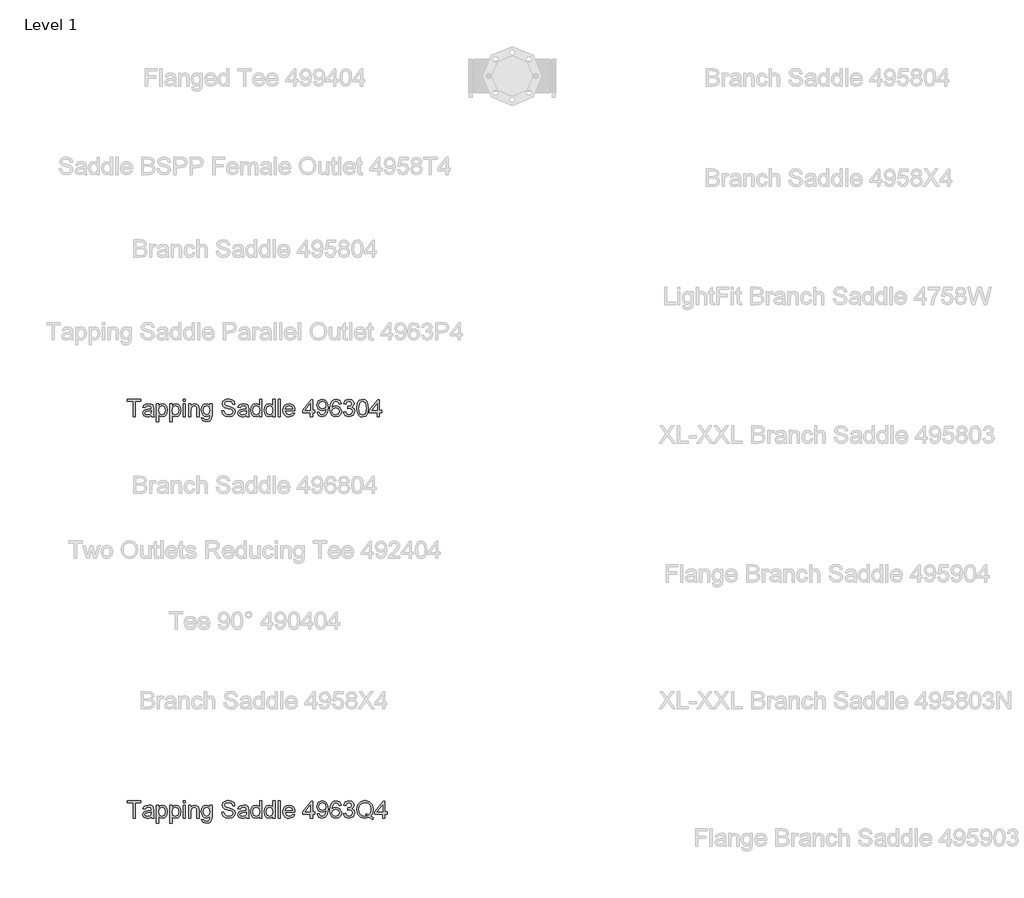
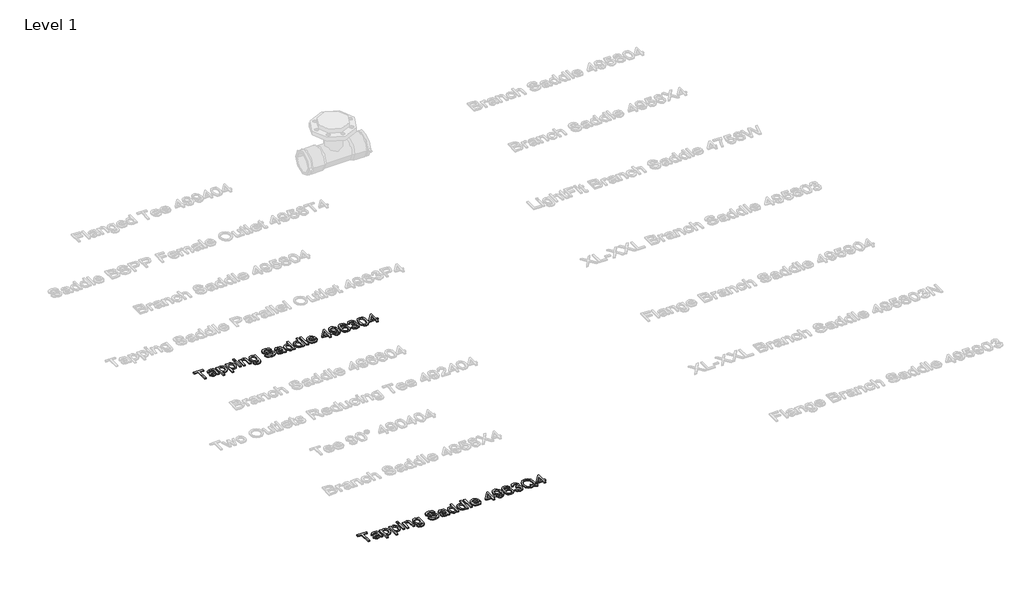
# One storey, part 4 of 38: 2 proxies.
"""IFC4 building model written with IfcOpenShell, lengths in millimetres."""

from ifc_helpers import new_model, si_unit, origin, origin_with_axes, place, context, project, spatial, polyline, outline, extrude, element, save

model = new_model("IFC4")

# Units and contexts
model_context = context("Model", 3, world=origin())
ifc_project = project(units=[si_unit("LENGTHUNIT", "METRE", prefix="MILLI")], contexts=[model_context])

# Site, building, storey
site = spatial("IfcSite", under=ifc_project)
building = spatial("IfcBuilding", under=site)
storey = spatial("IfcBuildingStorey", under=building, Name="Level 1", Elevation=0.0)

# Proxies
placement = place(None, origin())
element("IfcBuildingElementProxy", 1, Name="100 mm Arial", ObjectType="100 mm Arial", at=placement, inside=storey, context=model_context, shape_type="SweptSolid", body=[
    extrude(outline(polyline([(6647.6731533, 3817.5779735), (6647.6731533, 3869.2702812), (6628.288538, 3869.2702812), (6628.288538, 3876.6548966), (6674.4423841, 3876.6548966), (6674.4423841, 3869.2702812), (6655.0577687, 3869.2702812), (6655.0577687, 3817.5779735), (6647.6731533, 3817.5779735)])), origin_with_axes(), (0.0, 0.0, 1.0), 5.0),
    extrude(outline(polyline([(6709.5193072, 3823.1164351), (6702.3582495, 3818.1116274), (6694.4471918, 3816.6548966), (6683.7236341, 3820.1597043), (6679.9808456, 3829.1164351), (6681.3943072, 3834.9577812), (6685.1082495, 3839.1981658), (6690.2789226, 3841.6212428), (6696.6683456, 3842.7318197), (6709.476038, 3845.2702812), (6709.5193072, 3846.914512), (6707.4856533, 3852.3664351), (6699.3221918, 3854.5010505), (6691.851038, 3853.0803774), (6688.288538, 3848.039512), (6680.9039226, 3848.9625889), (6684.0986341, 3856.1741274), (6690.5313264, 3860.4000889), (6700.2741149, 3861.8856658), (6709.2236341, 3860.5731658), (6714.2789226, 3857.2774928), (6716.5433456, 3852.2654735), (6716.9039226, 3845.8039351), (6716.9039226, 3836.6164351), (6717.2789226, 3823.7871082), (6718.7500764, 3817.5779735), (6711.365461, 3817.5779735), (6709.5193072, 3823.1164351)]), holes=[polyline([(6709.5193072, 3837.8856658), (6697.6058456, 3835.6212428), (6691.2524803, 3834.4241274), (6688.3750764, 3832.477012), (6687.365461, 3829.6356658), (6689.5649803, 3825.6404735), (6696.0193072, 3824.039512), (6703.490461, 3825.8063389), (6708.3077687, 3830.0827812), (6709.476038, 3835.7943197), (6709.5193072, 3837.8856658)])]), origin_with_axes(), (0.0, 0.0, 1.0), 5.0),
    extrude(outline(polyline([(6727.0577687, 3800.9625889), (6727.0577687, 3860.9625889), (6734.4423841, 3860.9625889), (6734.4423841, 3853.7222043), (6739.5481533, 3859.8448005), (6746.4423841, 3861.8856658), (6755.802961, 3859.0298966), (6761.9183456, 3850.9818197), (6763.9808456, 3839.602012), (6761.6515187, 3827.6380697), (6754.8870956, 3819.4890312), (6745.5481533, 3816.6548966), (6739.1226726, 3818.5515312), (6734.4423841, 3823.3472043), (6734.4423841, 3800.9625889), (6727.0577687, 3800.9625889)]), holes=[polyline([(6734.4423841, 3838.9241274), (6737.6370956, 3827.6741274), (6745.3894995, 3824.039512), (6753.3005572, 3827.8039351), (6756.5962303, 3839.4722043), (6753.3798841, 3850.7510505), (6745.6923841, 3854.5010505), (6737.8534418, 3850.5130697), (6734.4423841, 3838.9241274)])]), origin_with_axes(), (0.0, 0.0, 1.0), 5.0),
    extrude(outline(polyline([(6772.288538, 3800.9625889), (6772.288538, 3860.9625889), (6779.6731533, 3860.9625889), (6779.6731533, 3853.7222043), (6784.7789226, 3859.8448005), (6791.6731533, 3861.8856658), (6801.0337303, 3859.0298966), (6807.1491149, 3850.9818197), (6809.2116149, 3839.602012), (6806.882288, 3827.6380697), (6800.1178649, 3819.4890312), (6790.7789226, 3816.6548966), (6784.3534418, 3818.5515312), (6779.6731533, 3823.3472043), (6779.6731533, 3800.9625889), (6772.288538, 3800.9625889)]), holes=[polyline([(6779.6731533, 3838.9241274), (6782.8678649, 3827.6741274), (6790.6202687, 3824.039512), (6798.5313264, 3827.8039351), (6801.8269995, 3839.4722043), (6798.6106533, 3850.7510505), (6790.9231533, 3854.5010505), (6783.084211, 3850.5130697), (6779.6731533, 3838.9241274)])]), origin_with_axes(), (0.0, 0.0, 1.0), 5.0),
    extrude(outline(polyline([(6817.5193072, 3869.2702812), (6817.5193072, 3876.6548966), (6824.9039226, 3876.6548966), (6824.9039226, 3869.2702812), (6817.5193072, 3869.2702812)])), origin_with_axes(), (0.0, 0.0, 1.0), 5.0),
    extrude(outline(polyline([(6817.5193072, 3817.5779735), (6817.5193072, 3860.9625889), (6824.9039226, 3860.9625889), (6824.9039226, 3817.5779735), (6817.5193072, 3817.5779735)])), origin_with_axes(), (0.0, 0.0, 1.0), 5.0),
    extrude(outline(polyline([(6835.9808456, 3817.5779735), (6835.9808456, 3860.9625889), (6843.365461, 3860.9625889), (6843.365461, 3854.9048966), (6849.0120956, 3860.1404735), (6856.7212303, 3861.8856658), (6863.694788, 3860.4794158), (6868.4544033, 3856.7871082), (6870.6683456, 3851.3568197), (6871.0577687, 3844.2173966), (6871.0577687, 3817.5779735), (6863.6731533, 3817.5779735), (6863.6731533, 3843.2222043), (6862.8221918, 3849.7558582), (6859.8149803, 3853.2101851), (6854.7452687, 3854.5010505), (6846.7332495, 3851.602012), (6843.365461, 3840.5972043), (6843.365461, 3817.5779735), (6835.9808456, 3817.5779735)])), origin_with_axes(), (0.0, 0.0, 1.0), 5.0),
    extrude(outline(polyline([(6879.365461, 3813.8856658), (6886.7500764, 3812.9625889), (6889.1443072, 3809.0683582), (6896.3125764, 3807.4241274), (6903.8702687, 3809.2847043), (6907.476038, 3814.5058582), (6907.9808456, 3823.1164351), (6896.4423841, 3817.5779735), (6888.8288024, 3819.1897524), (6883.1515187, 3824.0250889), (6878.4423841, 3839.4866274), (6880.5553649, 3850.9313389), (6886.6707495, 3859.0298966), (6896.0818072, 3861.8856658), (6902.6695476, 3860.2702812), (6907.9808456, 3855.4241274), (6907.9808456, 3860.9625889), (6915.365461, 3860.9625889), (6915.365461, 3823.5058582), (6913.3462303, 3809.1621082), (6906.9495956, 3802.4914351), (6896.1683456, 3800.039512), (6883.8870956, 3803.4938389), (6879.365461, 3813.8856658)]), holes=[polyline([(6885.8269995, 3839.9914351), (6888.9784418, 3828.5611466), (6896.8894995, 3824.9625889), (6904.7861341, 3828.539512), (6907.9808456, 3839.7750889), (6904.6923841, 3850.7871082), (6896.7741149, 3854.5010505), (6889.021711, 3850.8448005), (6885.8269995, 3839.9914351)])]), origin_with_axes(), (0.0, 0.0, 1.0), 5.0),
    extrude(outline(polyline([(6947.6731533, 3837.8856658), (6955.0577687, 3837.8856658), (6957.4375764, 3830.4938389), (6963.2500764, 3825.820762), (6972.1058456, 3824.039512), (6979.8221918, 3825.3880697), (6984.8053649, 3829.0948005), (6986.4423841, 3834.0491274), (6985.2164226, 3838.6573005), (6980.1971918, 3842.0106658), (6969.444788, 3844.8303774), (6957.8702687, 3848.4722043), (6951.5890187, 3853.9673966), (6949.5193072, 3861.3087428), (6952.0794033, 3869.6669158), (6959.5577687, 3875.5659543), (6970.5048841, 3877.5779735), (6982.1875764, 3875.4722043), (6989.976038, 3869.2847043), (6992.9039226, 3860.039512), (6985.5193072, 3860.039512), (6981.3366149, 3867.6260505), (6970.7933456, 3870.1933582), (6960.2212303, 3867.6548966), (6956.9039226, 3861.5250889), (6959.2548841, 3856.4048966), (6971.3125764, 3852.2798966), (6984.3798841, 3848.5731658), (6991.5265187, 3842.5875889), (6993.8269995, 3834.2366274), (6991.1803649, 3825.4024928), (6983.5649803, 3818.9553774), (6972.3943072, 3816.6548966), (6959.2044033, 3819.1356658), (6950.8606533, 3826.6068197), (6947.6731533, 3837.8856658)])), origin_with_axes(), (0.0, 0.0, 1.0), 5.0),
    extrude(outline(polyline([(7031.6731533, 3823.1164351), (7024.5120956, 3818.1116274), (7016.601038, 3816.6548966), (7005.8774803, 3820.1597043), (7002.1346918, 3829.1164351), (7003.5481533, 3834.9577812), (7007.2620956, 3839.1981658), (7012.4327687, 3841.6212428), (7018.8221918, 3842.7318197), (7031.6298841, 3845.2702812), (7031.6731533, 3846.914512), (7029.6394995, 3852.3664351), (7021.476038, 3854.5010505), (7014.0048841, 3853.0803774), (7010.4423841, 3848.039512), (7003.0577687, 3848.9625889), (7006.2524803, 3856.1741274), (7012.6851726, 3860.4000889), (7022.427961, 3861.8856658), (7031.3774803, 3860.5731658), (7036.4327687, 3857.2774928), (7038.6971918, 3852.2654735), (7039.0577687, 3845.8039351), (7039.0577687, 3836.6164351), (7039.4327687, 3823.7871082), (7040.9039226, 3817.5779735), (7033.5193072, 3817.5779735), (7031.6731533, 3823.1164351)]), holes=[polyline([(7031.6731533, 3837.8856658), (7019.7596918, 3835.6212428), (7013.4063264, 3834.4241274), (7010.5289226, 3832.477012), (7009.5193072, 3829.6356658), (7011.7188264, 3825.6404735), (7018.1731533, 3824.039512), (7025.6443072, 3825.8063389), (7030.4616149, 3830.0827812), (7031.6298841, 3835.7943197), (7031.6731533, 3837.8856658)])]), origin_with_axes(), (0.0, 0.0, 1.0), 5.0),
    extrude(outline(polyline([(7075.9808456, 3817.5779735), (7075.9808456, 3824.5443197), (7071.0950283, 3818.6272524), (7064.3414226, 3816.6548966), (7055.1971918, 3819.5106658), (7048.7356533, 3827.4794158), (7046.4423841, 3839.227012), (7048.5553649, 3850.9818197), (7054.8870956, 3859.0731658), (7064.3125764, 3861.8856658), (7071.1202687, 3859.8736466), (7075.9808456, 3854.6452812), (7075.9808456, 3876.6548966), (7083.365461, 3876.6548966), (7083.365461, 3817.5779735), (7075.9808456, 3817.5779735)]), holes=[polyline([(7053.8269995, 3839.2558582), (7057.1587303, 3827.8255697), (7065.0193072, 3824.039512), (7072.7861341, 3827.6524928), (7075.9808456, 3838.6933582), (7072.7284418, 3850.6789351), (7064.7164226, 3854.5010505), (7056.9423841, 3850.8303774), (7053.8269995, 3839.2558582)])]), origin_with_axes(), (0.0, 0.0, 1.0), 5.0),
    extrude(outline(polyline([(7121.2116149, 3817.5779735), (7121.2116149, 3824.5443197), (7116.3257976, 3818.6272524), (7109.5721918, 3816.6548966), (7100.427961, 3819.5106658), (7093.9664226, 3827.4794158), (7091.6731533, 3839.227012), (7093.7861341, 3850.9818197), (7100.1178649, 3859.0731658), (7109.5433456, 3861.8856658), (7116.351038, 3859.8736466), (7121.2116149, 3854.6452812), (7121.2116149, 3876.6548966), (7128.5962303, 3876.6548966), (7128.5962303, 3817.5779735), (7121.2116149, 3817.5779735)]), holes=[polyline([(7099.0577687, 3839.2558582), (7102.3894995, 3827.8255697), (7110.2500764, 3824.039512), (7118.0169033, 3827.6524928), (7121.2116149, 3838.6933582), (7117.959211, 3850.6789351), (7109.9471918, 3854.5010505), (7102.1731533, 3850.8303774), (7099.0577687, 3839.2558582)])]), origin_with_axes(), (0.0, 0.0, 1.0), 5.0),
    extrude(outline(polyline([(7139.6731533, 3817.5779735), (7139.6731533, 3876.6548966), (7147.0577687, 3876.6548966), (7147.0577687, 3817.5779735), (7139.6731533, 3817.5779735)])), origin_with_axes(), (0.0, 0.0, 1.0), 5.0),
    extrude(outline(polyline([(7188.5096918, 3830.5010505), (7195.7500764, 3829.5779735), (7188.9784418, 3820.0443197), (7176.365461, 3816.6548966), (7167.7007976, 3818.117036), (7161.0337303, 3822.5034543), (7156.7825283, 3829.5292957), (7155.365461, 3838.9097043), (7156.7969514, 3848.6056178), (7161.0914226, 3855.8568197), (7167.6683456, 3860.3784543), (7175.9471918, 3861.8856658), (7183.9682255, 3860.3820601), (7190.3774803, 3855.8712428), (7194.5800043, 3848.6344639), (7195.9808456, 3838.9529735), (7195.9375764, 3836.9625889), (7162.7500764, 3836.9625889), (7166.9976726, 3827.3712428), (7176.5096918, 3824.039512), (7183.7500764, 3825.5827812), (7188.5096918, 3830.5010505)]), holes=[polyline([(7162.7500764, 3844.3472043), (7188.5962303, 3844.3472043), (7185.6394995, 3851.039512), (7175.9183456, 3854.5010505), (7166.8245956, 3851.7390312), (7162.7500764, 3844.3472043)])]), origin_with_axes(), (0.0, 0.0, 1.0), 5.0),
    extrude(outline(polyline([(7248.5962303, 3817.5779735), (7248.5962303, 3831.4241274), (7221.8269995, 3831.4241274), (7221.8269995, 3838.8087428), (7250.4423841, 3875.7318197), (7255.9808456, 3875.7318197), (7255.9808456, 3838.8087428), (7263.365461, 3838.8087428), (7263.365461, 3831.4241274), (7255.9808456, 3831.4241274), (7255.9808456, 3817.5779735), (7248.5962303, 3817.5779735)]), holes=[polyline([(7248.5962303, 3838.8087428), (7248.5962303, 3861.6260505), (7230.913538, 3838.8087428), (7248.5962303, 3838.8087428)])]), origin_with_axes(), (0.0, 0.0, 1.0), 5.0),
    extrude(outline(polyline([(7270.7500764, 3832.3472043), (7278.1346918, 3833.2702812), (7281.4519995, 3826.2246082), (7287.740461, 3824.039512), (7293.7188264, 3825.445762), (7297.771711, 3829.2029735), (7300.1875764, 3835.6212428), (7301.2548841, 3844.1885505), (7295.3053649, 3840.0347043), (7287.2068072, 3837.8856658), (7274.8678649, 3843.1356658), (7269.8269995, 3856.9673966), (7275.1130572, 3871.2462428), (7288.3606533, 3876.6548966), (7298.882288, 3873.5683582), (7306.1226726, 3864.7702812), (7308.5962303, 3848.2414351), (7306.1298841, 3830.3063389), (7298.7957495, 3820.1452812), (7287.3943072, 3816.6548966), (7276.0433456, 3820.7726851), (7270.7500764, 3832.3472043)]), holes=[polyline([(7301.2116149, 3857.1404735), (7298.0241149, 3865.9962428), (7289.5577687, 3869.2702812), (7280.6731533, 3865.7438389), (7277.2116149, 3856.6068197), (7280.4856533, 3848.4217235), (7289.3558456, 3845.2702812), (7297.8726726, 3848.4217235), (7301.2116149, 3857.1404735)])]), origin_with_axes(), (0.0, 0.0, 1.0), 5.0),
    extrude(outline(polyline([(7352.9039226, 3860.9625889), (7345.5193072, 3860.039512), (7342.7212303, 3866.1981658), (7335.3221918, 3869.2702812), (7328.6587303, 3867.4818197), (7323.6178649, 3860.7678774), (7321.5193072, 3847.6068197), (7328.0313264, 3853.4986466), (7336.101038, 3855.4241274), (7348.6491149, 3850.1597043), (7353.8269995, 3836.5587428), (7351.3894995, 3826.3688389), (7344.6827687, 3819.1573005), (7335.0048841, 3816.6548966), (7326.6268793, 3818.3135505), (7319.9544033, 3823.289512), (7315.5896197, 3832.0731658), (7314.1346918, 3845.1548966), (7315.7500764, 3859.8628293), (7320.5962303, 3869.9193197), (7327.2128168, 3874.9710024), (7335.7837303, 3876.6548966), (7347.4519995, 3872.4866274), (7352.9039226, 3860.9625889)]), holes=[polyline([(7321.5193072, 3836.6741274), (7323.2284418, 3830.2774928), (7327.771711, 3825.633262), (7334.427961, 3824.039512), (7343.132288, 3827.3423966), (7346.4423841, 3836.3135505), (7343.1755572, 3844.9024928), (7334.1250764, 3848.039512), (7325.1899803, 3844.9024928), (7321.5193072, 3836.6741274)])]), origin_with_axes(), (0.0, 0.0, 1.0), 5.0),
    extrude(outline(polyline([(7360.288538, 3833.2702812), (7367.6731533, 3834.1933582), (7371.7476726, 3826.4193197), (7379.3702687, 3824.039512), (7388.3414226, 3827.3135505), (7391.6731533, 3835.4193197), (7388.3702687, 3843.0563389), (7379.976038, 3846.0779735), (7374.7981533, 3845.2702812), (7375.6202687, 3852.6548966), (7385.1827687, 3854.6885505), (7388.9039226, 3861.2077812), (7386.2068072, 3866.9842235), (7379.2548841, 3869.2702812), (7372.2164226, 3866.9625889), (7368.5962303, 3860.039512), (7361.2116149, 3860.9625889), (7367.2548841, 3872.5443197), (7378.9952687, 3876.6548966), (7387.9015187, 3874.6284543), (7394.132288, 3869.0899928), (7396.288538, 3861.6404735), (7394.240461, 3854.8327812), (7388.1827687, 3849.9433582), (7396.2308456, 3844.8952812), (7399.0577687, 3835.289512), (7393.4039226, 3822.0779735), (7379.1106533, 3816.6548966), (7366.1587303, 3821.2847043), (7360.288538, 3833.2702812)])), origin_with_axes(), (0.0, 0.0, 1.0), 5.0),
    extrude(outline(polyline([(7405.5193072, 3846.6404735), (7407.6899803, 3863.6380697), (7414.1370956, 3873.4385505), (7424.9039226, 3876.6548966), (7433.5289226, 3874.7510505), (7439.4856533, 3869.2630697), (7442.9471918, 3860.5226851), (7444.288538, 3846.6404735), (7442.1394995, 3829.7149928), (7435.7140187, 3819.8928774), (7424.9039226, 3816.6548966), (7417.2308456, 3818.0611466), (7411.4039226, 3822.2798966), (7406.990461, 3832.2714832), (7405.5193072, 3846.6404735)]), holes=[polyline([(7412.9039226, 3846.6548966), (7416.365461, 3828.3159543), (7424.9039226, 3824.039512), (7433.4423841, 3828.3303774), (7436.9039226, 3846.6548966), (7433.5577687, 3864.7847043), (7424.8173841, 3869.2702812), (7416.4808456, 3865.3183582), (7412.9039226, 3846.6548966)])]), origin_with_axes(), (0.0, 0.0, 1.0), 5.0),
    extrude(outline(polyline([(7474.7500764, 3817.5779735), (7474.7500764, 3831.4241274), (7447.9808456, 3831.4241274), (7447.9808456, 3838.8087428), (7476.5962303, 3875.7318197), (7482.1346918, 3875.7318197), (7482.1346918, 3838.8087428), (7489.5193072, 3838.8087428), (7489.5193072, 3831.4241274), (7482.1346918, 3831.4241274), (7482.1346918, 3817.5779735), (7474.7500764, 3817.5779735)]), holes=[polyline([(7474.7500764, 3838.8087428), (7474.7500764, 3861.6260505), (7457.0673841, 3838.8087428), (7474.7500764, 3838.8087428)])]), origin_with_axes(), (0.0, 0.0, 1.0), 5.0),
])
element("IfcBuildingElementProxy", 2, Name="100 mm Arial", ObjectType="100 mm Arial", at=placement, inside=storey, context=model_context, shape_type="SweptSolid", body=[
    extrude(outline(polyline([(6647.6731533, 2457.5779735), (6647.6731533, 2509.2702812), (6628.288538, 2509.2702812), (6628.288538, 2516.6548966), (6674.4423841, 2516.6548966), (6674.4423841, 2509.2702812), (6655.0577687, 2509.2702812), (6655.0577687, 2457.5779735), (6647.6731533, 2457.5779735)])), origin_with_axes(), (0.0, 0.0, 1.0), 5.0),
    extrude(outline(polyline([(6709.5193072, 2463.1164351), (6702.3582495, 2458.1116274), (6694.4471918, 2456.6548966), (6683.7236341, 2460.1597043), (6679.9808456, 2469.1164351), (6681.3943072, 2474.9577812), (6685.1082495, 2479.1981658), (6690.2789226, 2481.6212428), (6696.6683456, 2482.7318197), (6709.476038, 2485.2702812), (6709.5193072, 2486.914512), (6707.4856533, 2492.3664351), (6699.3221918, 2494.5010505), (6691.851038, 2493.0803774), (6688.288538, 2488.039512), (6680.9039226, 2488.9625889), (6684.0986341, 2496.1741274), (6690.5313264, 2500.4000889), (6700.2741149, 2501.8856658), (6709.2236341, 2500.5731658), (6714.2789226, 2497.2774928), (6716.5433456, 2492.2654735), (6716.9039226, 2485.8039351), (6716.9039226, 2476.6164351), (6717.2789226, 2463.7871082), (6718.7500764, 2457.5779735), (6711.365461, 2457.5779735), (6709.5193072, 2463.1164351)]), holes=[polyline([(6709.5193072, 2477.8856658), (6697.6058456, 2475.6212428), (6691.2524803, 2474.4241274), (6688.3750764, 2472.477012), (6687.365461, 2469.6356658), (6689.5649803, 2465.6404735), (6696.0193072, 2464.039512), (6703.490461, 2465.8063389), (6708.3077687, 2470.0827812), (6709.476038, 2475.7943197), (6709.5193072, 2477.8856658)])]), origin_with_axes(), (0.0, 0.0, 1.0), 5.0),
    extrude(outline(polyline([(6727.0577687, 2440.9625889), (6727.0577687, 2500.9625889), (6734.4423841, 2500.9625889), (6734.4423841, 2493.7222043), (6739.5481533, 2499.8448005), (6746.4423841, 2501.8856658), (6755.802961, 2499.0298966), (6761.9183456, 2490.9818197), (6763.9808456, 2479.602012), (6761.6515187, 2467.6380697), (6754.8870956, 2459.4890312), (6745.5481533, 2456.6548966), (6739.1226726, 2458.5515312), (6734.4423841, 2463.3472043), (6734.4423841, 2440.9625889), (6727.0577687, 2440.9625889)]), holes=[polyline([(6734.4423841, 2478.9241274), (6737.6370956, 2467.6741274), (6745.3894995, 2464.039512), (6753.3005572, 2467.8039351), (6756.5962303, 2479.4722043), (6753.3798841, 2490.7510505), (6745.6923841, 2494.5010505), (6737.8534418, 2490.5130697), (6734.4423841, 2478.9241274)])]), origin_with_axes(), (0.0, 0.0, 1.0), 5.0),
    extrude(outline(polyline([(6772.288538, 2440.9625889), (6772.288538, 2500.9625889), (6779.6731533, 2500.9625889), (6779.6731533, 2493.7222043), (6784.7789226, 2499.8448005), (6791.6731533, 2501.8856658), (6801.0337303, 2499.0298966), (6807.1491149, 2490.9818197), (6809.2116149, 2479.602012), (6806.882288, 2467.6380697), (6800.1178649, 2459.4890312), (6790.7789226, 2456.6548966), (6784.3534418, 2458.5515312), (6779.6731533, 2463.3472043), (6779.6731533, 2440.9625889), (6772.288538, 2440.9625889)]), holes=[polyline([(6779.6731533, 2478.9241274), (6782.8678649, 2467.6741274), (6790.6202687, 2464.039512), (6798.5313264, 2467.8039351), (6801.8269995, 2479.4722043), (6798.6106533, 2490.7510505), (6790.9231533, 2494.5010505), (6783.084211, 2490.5130697), (6779.6731533, 2478.9241274)])]), origin_with_axes(), (0.0, 0.0, 1.0), 5.0),
    extrude(outline(polyline([(6817.5193072, 2509.2702812), (6817.5193072, 2516.6548966), (6824.9039226, 2516.6548966), (6824.9039226, 2509.2702812), (6817.5193072, 2509.2702812)])), origin_with_axes(), (0.0, 0.0, 1.0), 5.0),
    extrude(outline(polyline([(6817.5193072, 2457.5779735), (6817.5193072, 2500.9625889), (6824.9039226, 2500.9625889), (6824.9039226, 2457.5779735), (6817.5193072, 2457.5779735)])), origin_with_axes(), (0.0, 0.0, 1.0), 5.0),
    extrude(outline(polyline([(6835.9808456, 2457.5779735), (6835.9808456, 2500.9625889), (6843.365461, 2500.9625889), (6843.365461, 2494.9048966), (6849.0120956, 2500.1404735), (6856.7212303, 2501.8856658), (6863.694788, 2500.4794158), (6868.4544033, 2496.7871082), (6870.6683456, 2491.3568197), (6871.0577687, 2484.2173966), (6871.0577687, 2457.5779735), (6863.6731533, 2457.5779735), (6863.6731533, 2483.2222043), (6862.8221918, 2489.7558582), (6859.8149803, 2493.2101851), (6854.7452687, 2494.5010505), (6846.7332495, 2491.602012), (6843.365461, 2480.5972043), (6843.365461, 2457.5779735), (6835.9808456, 2457.5779735)])), origin_with_axes(), (0.0, 0.0, 1.0), 5.0),
    extrude(outline(polyline([(6879.365461, 2453.8856658), (6886.7500764, 2452.9625889), (6889.1443072, 2449.0683582), (6896.3125764, 2447.4241274), (6903.8702687, 2449.2847043), (6907.476038, 2454.5058582), (6907.9808456, 2463.1164351), (6896.4423841, 2457.5779735), (6888.8288024, 2459.1897524), (6883.1515187, 2464.0250889), (6878.4423841, 2479.4866274), (6880.5553649, 2490.9313389), (6886.6707495, 2499.0298966), (6896.0818072, 2501.8856658), (6902.6695476, 2500.2702812), (6907.9808456, 2495.4241274), (6907.9808456, 2500.9625889), (6915.365461, 2500.9625889), (6915.365461, 2463.5058582), (6913.3462303, 2449.1621082), (6906.9495956, 2442.4914351), (6896.1683456, 2440.039512), (6883.8870956, 2443.4938389), (6879.365461, 2453.8856658)]), holes=[polyline([(6885.8269995, 2479.9914351), (6888.9784418, 2468.5611466), (6896.8894995, 2464.9625889), (6904.7861341, 2468.539512), (6907.9808456, 2479.7750889), (6904.6923841, 2490.7871082), (6896.7741149, 2494.5010505), (6889.021711, 2490.8448005), (6885.8269995, 2479.9914351)])]), origin_with_axes(), (0.0, 0.0, 1.0), 5.0),
    extrude(outline(polyline([(6947.6731533, 2477.8856658), (6955.0577687, 2477.8856658), (6957.4375764, 2470.4938389), (6963.2500764, 2465.820762), (6972.1058456, 2464.039512), (6979.8221918, 2465.3880697), (6984.8053649, 2469.0948005), (6986.4423841, 2474.0491274), (6985.2164226, 2478.6573005), (6980.1971918, 2482.0106658), (6969.444788, 2484.8303774), (6957.8702687, 2488.4722043), (6951.5890187, 2493.9673966), (6949.5193072, 2501.3087428), (6952.0794033, 2509.6669158), (6959.5577687, 2515.5659543), (6970.5048841, 2517.5779735), (6982.1875764, 2515.4722043), (6989.976038, 2509.2847043), (6992.9039226, 2500.039512), (6985.5193072, 2500.039512), (6981.3366149, 2507.6260505), (6970.7933456, 2510.1933582), (6960.2212303, 2507.6548966), (6956.9039226, 2501.5250889), (6959.2548841, 2496.4048966), (6971.3125764, 2492.2798966), (6984.3798841, 2488.5731658), (6991.5265187, 2482.5875889), (6993.8269995, 2474.2366274), (6991.1803649, 2465.4024928), (6983.5649803, 2458.9553774), (6972.3943072, 2456.6548966), (6959.2044033, 2459.1356658), (6950.8606533, 2466.6068197), (6947.6731533, 2477.8856658)])), origin_with_axes(), (0.0, 0.0, 1.0), 5.0),
    extrude(outline(polyline([(7031.6731533, 2463.1164351), (7024.5120956, 2458.1116274), (7016.601038, 2456.6548966), (7005.8774803, 2460.1597043), (7002.1346918, 2469.1164351), (7003.5481533, 2474.9577812), (7007.2620956, 2479.1981658), (7012.4327687, 2481.6212428), (7018.8221918, 2482.7318197), (7031.6298841, 2485.2702812), (7031.6731533, 2486.914512), (7029.6394995, 2492.3664351), (7021.476038, 2494.5010505), (7014.0048841, 2493.0803774), (7010.4423841, 2488.039512), (7003.0577687, 2488.9625889), (7006.2524803, 2496.1741274), (7012.6851726, 2500.4000889), (7022.427961, 2501.8856658), (7031.3774803, 2500.5731658), (7036.4327687, 2497.2774928), (7038.6971918, 2492.2654735), (7039.0577687, 2485.8039351), (7039.0577687, 2476.6164351), (7039.4327687, 2463.7871082), (7040.9039226, 2457.5779735), (7033.5193072, 2457.5779735), (7031.6731533, 2463.1164351)]), holes=[polyline([(7031.6731533, 2477.8856658), (7019.7596918, 2475.6212428), (7013.4063264, 2474.4241274), (7010.5289226, 2472.477012), (7009.5193072, 2469.6356658), (7011.7188264, 2465.6404735), (7018.1731533, 2464.039512), (7025.6443072, 2465.8063389), (7030.4616149, 2470.0827812), (7031.6298841, 2475.7943197), (7031.6731533, 2477.8856658)])]), origin_with_axes(), (0.0, 0.0, 1.0), 5.0),
    extrude(outline(polyline([(7075.9808456, 2457.5779735), (7075.9808456, 2464.5443197), (7071.0950283, 2458.6272524), (7064.3414226, 2456.6548966), (7055.1971918, 2459.5106658), (7048.7356533, 2467.4794158), (7046.4423841, 2479.227012), (7048.5553649, 2490.9818197), (7054.8870956, 2499.0731658), (7064.3125764, 2501.8856658), (7071.1202687, 2499.8736466), (7075.9808456, 2494.6452812), (7075.9808456, 2516.6548966), (7083.365461, 2516.6548966), (7083.365461, 2457.5779735), (7075.9808456, 2457.5779735)]), holes=[polyline([(7053.8269995, 2479.2558582), (7057.1587303, 2467.8255697), (7065.0193072, 2464.039512), (7072.7861341, 2467.6524928), (7075.9808456, 2478.6933582), (7072.7284418, 2490.6789351), (7064.7164226, 2494.5010505), (7056.9423841, 2490.8303774), (7053.8269995, 2479.2558582)])]), origin_with_axes(), (0.0, 0.0, 1.0), 5.0),
    extrude(outline(polyline([(7121.2116149, 2457.5779735), (7121.2116149, 2464.5443197), (7116.3257976, 2458.6272524), (7109.5721918, 2456.6548966), (7100.427961, 2459.5106658), (7093.9664226, 2467.4794158), (7091.6731533, 2479.227012), (7093.7861341, 2490.9818197), (7100.1178649, 2499.0731658), (7109.5433456, 2501.8856658), (7116.351038, 2499.8736466), (7121.2116149, 2494.6452812), (7121.2116149, 2516.6548966), (7128.5962303, 2516.6548966), (7128.5962303, 2457.5779735), (7121.2116149, 2457.5779735)]), holes=[polyline([(7099.0577687, 2479.2558582), (7102.3894995, 2467.8255697), (7110.2500764, 2464.039512), (7118.0169033, 2467.6524928), (7121.2116149, 2478.6933582), (7117.959211, 2490.6789351), (7109.9471918, 2494.5010505), (7102.1731533, 2490.8303774), (7099.0577687, 2479.2558582)])]), origin_with_axes(), (0.0, 0.0, 1.0), 5.0),
    extrude(outline(polyline([(7139.6731533, 2457.5779735), (7139.6731533, 2516.6548966), (7147.0577687, 2516.6548966), (7147.0577687, 2457.5779735), (7139.6731533, 2457.5779735)])), origin_with_axes(), (0.0, 0.0, 1.0), 5.0),
    extrude(outline(polyline([(7188.5096918, 2470.5010505), (7195.7500764, 2469.5779735), (7188.9784418, 2460.0443197), (7176.365461, 2456.6548966), (7167.7007976, 2458.117036), (7161.0337303, 2462.5034543), (7156.7825283, 2469.5292957), (7155.365461, 2478.9097043), (7156.7969514, 2488.6056178), (7161.0914226, 2495.8568197), (7167.6683456, 2500.3784543), (7175.9471918, 2501.8856658), (7183.9682255, 2500.3820601), (7190.3774803, 2495.8712428), (7194.5800043, 2488.6344639), (7195.9808456, 2478.9529735), (7195.9375764, 2476.9625889), (7162.7500764, 2476.9625889), (7166.9976726, 2467.3712428), (7176.5096918, 2464.039512), (7183.7500764, 2465.5827812), (7188.5096918, 2470.5010505)]), holes=[polyline([(7162.7500764, 2484.3472043), (7188.5962303, 2484.3472043), (7185.6394995, 2491.039512), (7175.9183456, 2494.5010505), (7166.8245956, 2491.7390312), (7162.7500764, 2484.3472043)])]), origin_with_axes(), (0.0, 0.0, 1.0), 5.0),
    extrude(outline(polyline([(7248.5962303, 2457.5779735), (7248.5962303, 2471.4241274), (7221.8269995, 2471.4241274), (7221.8269995, 2478.8087428), (7250.4423841, 2515.7318197), (7255.9808456, 2515.7318197), (7255.9808456, 2478.8087428), (7263.365461, 2478.8087428), (7263.365461, 2471.4241274), (7255.9808456, 2471.4241274), (7255.9808456, 2457.5779735), (7248.5962303, 2457.5779735)]), holes=[polyline([(7248.5962303, 2478.8087428), (7248.5962303, 2501.6260505), (7230.913538, 2478.8087428), (7248.5962303, 2478.8087428)])]), origin_with_axes(), (0.0, 0.0, 1.0), 5.0),
    extrude(outline(polyline([(7270.7500764, 2472.3472043), (7278.1346918, 2473.2702812), (7281.4519995, 2466.2246082), (7287.740461, 2464.039512), (7293.7188264, 2465.445762), (7297.771711, 2469.2029735), (7300.1875764, 2475.6212428), (7301.2548841, 2484.1885505), (7295.3053649, 2480.0347043), (7287.2068072, 2477.8856658), (7274.8678649, 2483.1356658), (7269.8269995, 2496.9673966), (7275.1130572, 2511.2462428), (7288.3606533, 2516.6548966), (7298.882288, 2513.5683582), (7306.1226726, 2504.7702812), (7308.5962303, 2488.2414351), (7306.1298841, 2470.3063389), (7298.7957495, 2460.1452812), (7287.3943072, 2456.6548966), (7276.0433456, 2460.7726851), (7270.7500764, 2472.3472043)]), holes=[polyline([(7301.2116149, 2497.1404735), (7298.0241149, 2505.9962428), (7289.5577687, 2509.2702812), (7280.6731533, 2505.7438389), (7277.2116149, 2496.6068197), (7280.4856533, 2488.4217235), (7289.3558456, 2485.2702812), (7297.8726726, 2488.4217235), (7301.2116149, 2497.1404735)])]), origin_with_axes(), (0.0, 0.0, 1.0), 5.0),
    extrude(outline(polyline([(7352.9039226, 2500.9625889), (7345.5193072, 2500.039512), (7342.7212303, 2506.1981658), (7335.3221918, 2509.2702812), (7328.6587303, 2507.4818197), (7323.6178649, 2500.7678774), (7321.5193072, 2487.6068197), (7328.0313264, 2493.4986466), (7336.101038, 2495.4241274), (7348.6491149, 2490.1597043), (7353.8269995, 2476.5587428), (7351.3894995, 2466.3688389), (7344.6827687, 2459.1573005), (7335.0048841, 2456.6548966), (7326.6268793, 2458.3135505), (7319.9544033, 2463.289512), (7315.5896197, 2472.0731658), (7314.1346918, 2485.1548966), (7315.7500764, 2499.8628293), (7320.5962303, 2509.9193197), (7327.2128168, 2514.9710024), (7335.7837303, 2516.6548966), (7347.4519995, 2512.4866274), (7352.9039226, 2500.9625889)]), holes=[polyline([(7321.5193072, 2476.6741274), (7323.2284418, 2470.2774928), (7327.771711, 2465.633262), (7334.427961, 2464.039512), (7343.132288, 2467.3423966), (7346.4423841, 2476.3135505), (7343.1755572, 2484.9024928), (7334.1250764, 2488.039512), (7325.1899803, 2484.9024928), (7321.5193072, 2476.6741274)])]), origin_with_axes(), (0.0, 0.0, 1.0), 5.0),
    extrude(outline(polyline([(7360.288538, 2473.2702812), (7367.6731533, 2474.1933582), (7371.7476726, 2466.4193197), (7379.3702687, 2464.039512), (7388.3414226, 2467.3135505), (7391.6731533, 2475.4193197), (7388.3702687, 2483.0563389), (7379.976038, 2486.0779735), (7374.7981533, 2485.2702812), (7375.6202687, 2492.6548966), (7385.1827687, 2494.6885505), (7388.9039226, 2501.2077812), (7386.2068072, 2506.9842235), (7379.2548841, 2509.2702812), (7372.2164226, 2506.9625889), (7368.5962303, 2500.039512), (7361.2116149, 2500.9625889), (7367.2548841, 2512.5443197), (7378.9952687, 2516.6548966), (7387.9015187, 2514.6284543), (7394.132288, 2509.0899928), (7396.288538, 2501.6404735), (7394.240461, 2494.8327812), (7388.1827687, 2489.9433582), (7396.2308456, 2484.8952812), (7399.0577687, 2475.289512), (7393.4039226, 2462.0779735), (7379.1106533, 2456.6548966), (7366.1587303, 2461.2847043), (7360.288538, 2473.2702812)])), origin_with_axes(), (0.0, 0.0, 1.0), 5.0),
    extrude(outline(polyline([(7452.6683456, 2464.6597043), (7461.8269995, 2458.5010505), (7459.8366149, 2453.0923966), (7447.677961, 2460.0010505), (7433.3269995, 2456.6548966), (7418.9471918, 2460.5130697), (7409.0024803, 2471.3592235), (7405.5193072, 2487.102012), (7408.9952687, 2502.9601851), (7418.8894995, 2513.8423966), (7433.2548841, 2517.5779735), (7447.7140187, 2513.7558582), (7457.5289226, 2503.0539351), (7460.9039226, 2487.5347043), (7458.8558456, 2474.6260505), (7452.6683456, 2464.6597043)]), holes=[polyline([(7435.3606533, 2474.4818197), (7446.5818072, 2468.8712428), (7451.7849322, 2476.4866274), (7453.5193072, 2487.1597043), (7451.0673841, 2499.2823005), (7443.8919033, 2507.3303774), (7433.2981533, 2510.1933582), (7425.2500764, 2508.7456418), (7418.7019995, 2504.4024928), (7414.3534418, 2497.1855457), (7412.9039226, 2487.1164351), (7414.3372158, 2477.2636707), (7418.6370956, 2470.0034543), (7425.1653408, 2465.5304976), (7433.2837303, 2464.039512), (7441.2308456, 2465.5539351), (7433.4568072, 2468.8279735), (7435.3606533, 2474.4818197)])]), origin_with_axes(), (0.0, 0.0, 1.0), 5.0),
    extrude(outline(polyline([(7493.2116149, 2457.5779735), (7493.2116149, 2471.4241274), (7466.4423841, 2471.4241274), (7466.4423841, 2478.8087428), (7495.0577687, 2515.7318197), (7500.5962303, 2515.7318197), (7500.5962303, 2478.8087428), (7507.9808456, 2478.8087428), (7507.9808456, 2471.4241274), (7500.5962303, 2471.4241274), (7500.5962303, 2457.5779735), (7493.2116149, 2457.5779735)]), holes=[polyline([(7493.2116149, 2478.8087428), (7493.2116149, 2501.6260505), (7475.5289226, 2478.8087428), (7493.2116149, 2478.8087428)])]), origin_with_axes(), (0.0, 0.0, 1.0), 5.0),
])

save(model, "model.ifc")
